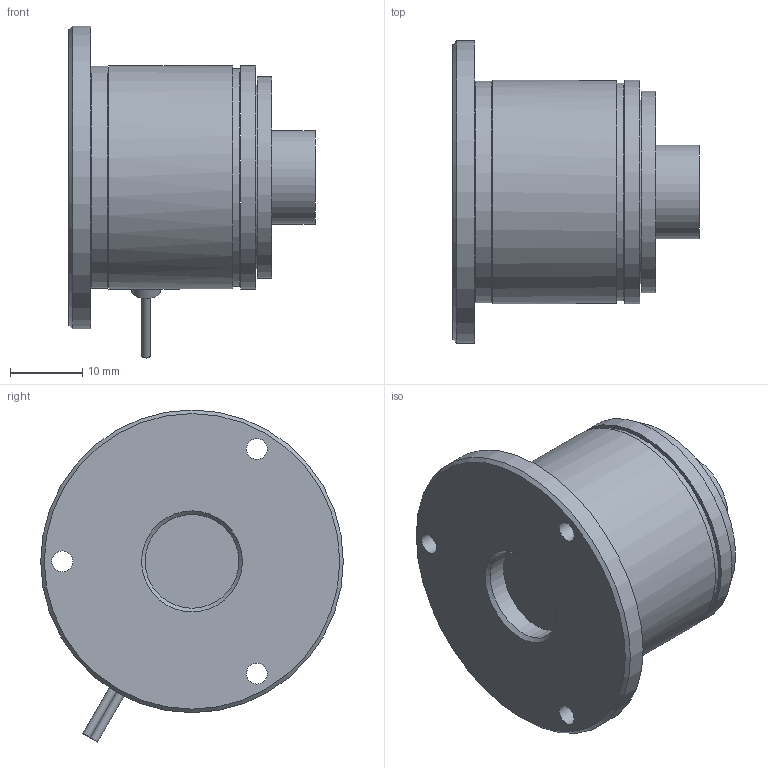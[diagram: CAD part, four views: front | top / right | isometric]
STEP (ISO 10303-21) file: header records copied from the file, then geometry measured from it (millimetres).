
FILE_DESCRIPTION(/* description */ (''),/* implementation_level */ '2;1');
FILE_NAME(/* name */ 'G:\Zeichnungsarchiv\3D-Modelle\PM 03\PM 03 Bauform 1\14.120.03.101-001_3D Modell_5 mm.stp',/* time_stamp */ '2013-07-11T14:14:13+02:00',/* author */ ('thomas.schoettelndre'),/* organization */ (''),/* preprocessor_version */ 'ST-DEVELOPER v15.2',/* originating_system */ 'Autodesk Inventor 2014',/* authorisation */ '');
FILE_SCHEMA (('AUTOMOTIVE_DESIGN { 1 0 10303 214 3 1 1 }'));
Length unit declared in the file: centimetre
Products named in the file (1): 14.120.03
Bounding box: 34.15 x 42 x 46.06 mm (x, y, z)
Volume: 21466.3 mm3; surface area: 12498.9 mm2
Topology: 3 solids, 3 shells, 282 faces, 783 edges, 508 vertices
Faces by surface type: cylinder 134, plane 112, cone 14, bspline 14, torus 8
Full cylindrical faces by diameter (mm): 2.5 x6, 2.9 x3, 3 x2, 3.7 x2, 4 x1, 5 x1, 5.5 x2, 13 x2, 18 x2, 20 x1, 25 x1, 25.5 x1, 28 x2, 30.8 x1, 31 x2, 42 x1
Entity records: 9906 total; most frequent: CARTESIAN_POINT 2412, ORIENTED_EDGE 1468, DIRECTION 1462, EDGE_CURVE 734, AXIS2_PLACEMENT_3D 575, VERTEX_POINT 497, EDGE_LOOP 383, LINE 312
